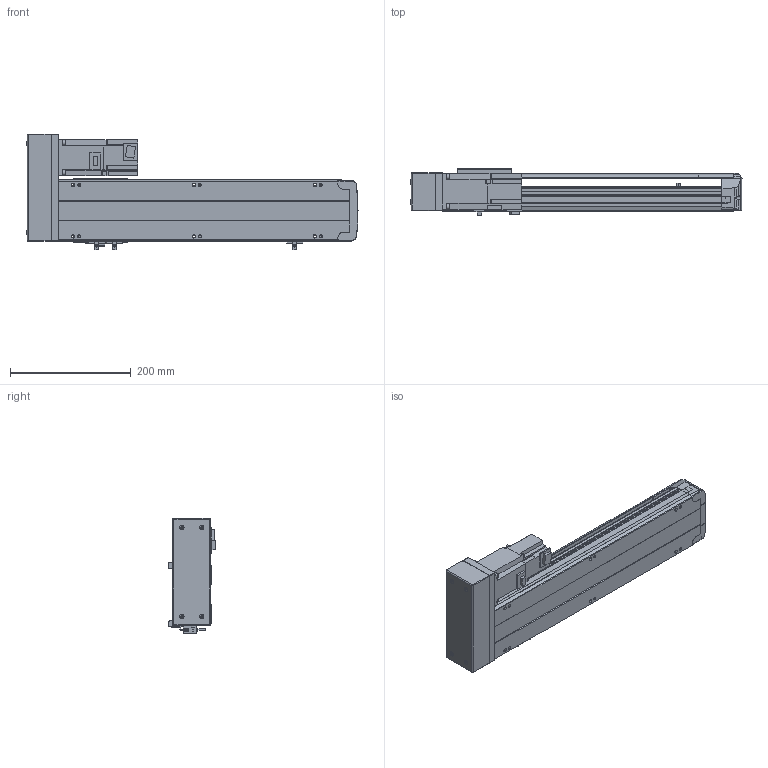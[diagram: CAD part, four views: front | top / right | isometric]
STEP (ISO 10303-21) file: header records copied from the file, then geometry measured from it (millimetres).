
FILE_DESCRIPTION(/* description */ ('STEP AP214'),/* implementation_level */ '2;1');
FILE_NAME(/* name */ 'PSS120-L10-S300-BL-T40-C1-N(0)',/* time_stamp */ '2022-06-06T02:28:10+02:00',/* author */ ('License CC BY-ND 4.0'),/* organization */ ('CADENAS'),/* preprocessor_version */ 'ST-DEVELOPER v18.102',/* originating_system */ 'PARTsolutions',/* authorisation */ ' ');
FILE_SCHEMA (('AUTOMOTIVE_DESIGN {1 0 10303 214 3 1 1}'));
Length unit declared in the file: millimetre
Products named in the file (8): PSS120-L10-S300-BL-T40-C1-N(0); PSS120-S300-BL-N_S; T40-p1; PSS120BL-N_h; PSS120-N_sensor; PSS120-BL-C1-N_sl; PSS120-N_Q; PSS120-S300-BL-C1-N_body
Assembly tree (9 placements, depth 2):
  PSS120-L10-S300-BL-T40-C1-N(0)
    PSS120-S300-BL-N_S
    T40-p1
    PSS120BL-N_h
    PSS120-N_sensor  x3
    PSS120-BL-C1-N_sl
    PSS120-N_Q
    PSS120-S300-BL-C1-N_body
Bounding box: 549.35 x 76.8 x 191.2 mm (x, y, z)
Volume: 2603165 mm3; surface area: 436073.5 mm2
Topology: 9 solids, 9 shells, 800 faces, 2149 edges, 1422 vertices
Faces by surface type: plane 577, cylinder 205, cone 14, sphere 4
Full cylindrical faces by diameter (mm): 2.8 x3, 4 x4, 4.134 x10, 4.4 x2, 4.5 x4, 4.6 x3, 5 x6, 5.5 x13, 7 x2, 7.4 x4, 8 x4, 8.5 x10, 14 x1, 28 x1, 32 x2, 50 x1
Entity records: 21499 total; most frequent: CARTESIAN_POINT 3865, DIRECTION 3581, ORIENTED_EDGE 3526, EDGE_CURVE 1763, LINE 1293, VECTOR 1293, VERTEX_POINT 1212, AXIS2_PLACEMENT_3D 1144
